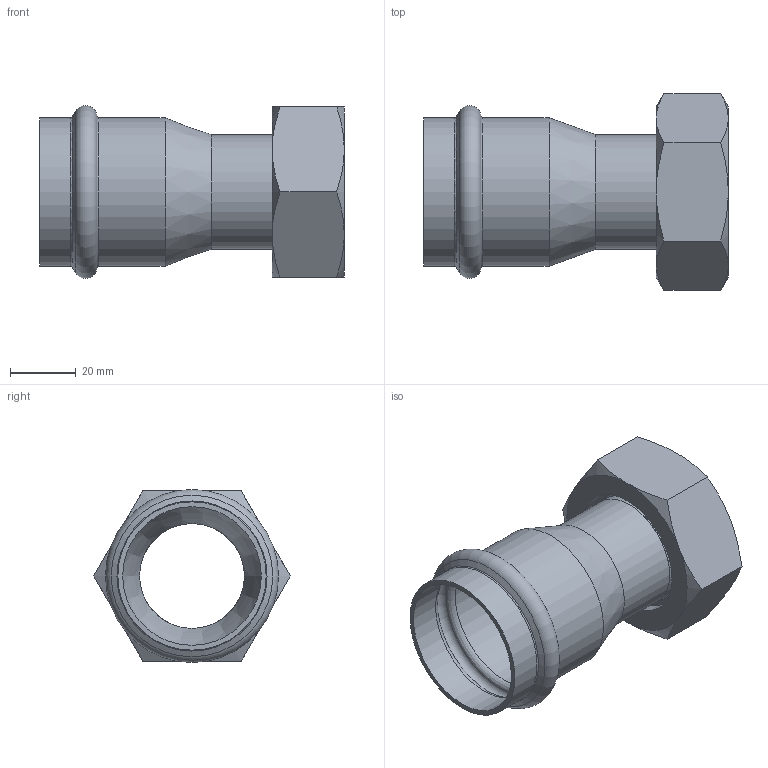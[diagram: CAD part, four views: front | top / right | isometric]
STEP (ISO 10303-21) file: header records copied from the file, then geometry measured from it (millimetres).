
FILE_DESCRIPTION((''),'2;1');
FILE_NAME('G:\Nirosan-Schmiedefeld\Technics\CAD\001 Serie 9.000\042\69359m42112h(0).stp','2018-10-16T11:05:41',('herberg'),(''),'Autodesk Inventor 2009','Autodesk Inventor 2009','');
FILE_SCHEMA(('AUTOMOTIVE_DESIGN { 1 0 10303 214 1 1 1 1 }'));
Length unit declared in the file: millimetre
Products named in the file (5): 69359m42112h(0); 69HMU42p(0); R35112(1); FD_4432_EPDM(0); 69MS35112P(1)
Assembly tree (4 placements, depth 2):
  69359m42112h(0)
    69HMU42p(0)
    R35112(1)
    FD_4432_EPDM(0)
    69MS35112P(1)
Bounding box: 93 x 60.04 x 52.8 mm (x, y, z)
Volume: 37253.8 mm3; surface area: 33762.9 mm2
Topology: 4 solids, 4 shells, 53 faces, 104 edges, 61 vertices
Faces by surface type: cone 17, plane 15, cylinder 11, bspline 8, torus 2
Full cylindrical faces by diameter (mm): 32 x3, 35 x2, 42.3 x2, 43 x1, 44 x1, 45.3 x2
Entity records: 1566 total; most frequent: CARTESIAN_POINT 501, DIRECTION 206, ORIENTED_EDGE 152, AXIS2_PLACEMENT_3D 100, EDGE_LOOP 88, EDGE_CURVE 76, VERTEX_POINT 58, FACE_OUTER_BOUND 53
